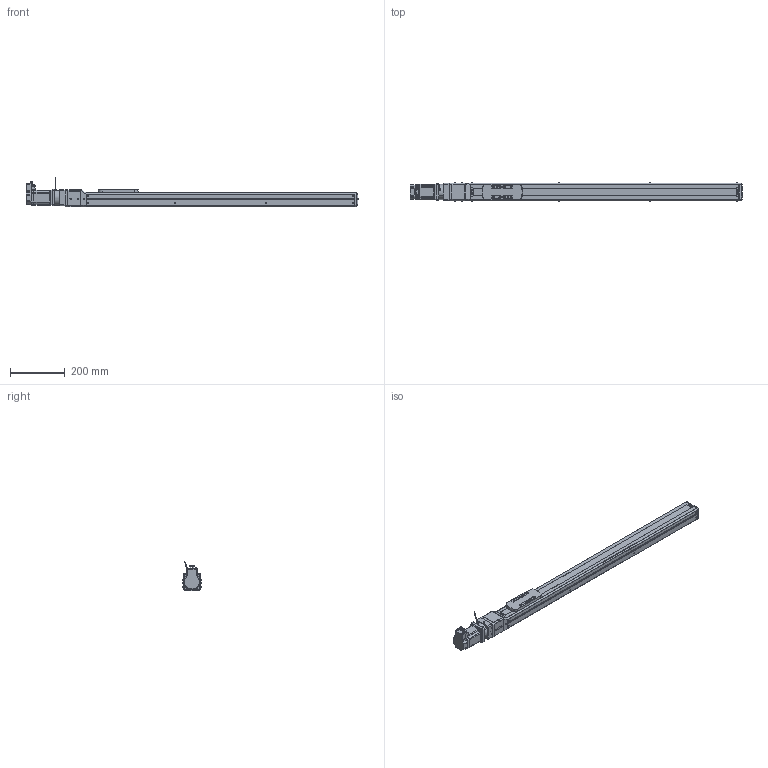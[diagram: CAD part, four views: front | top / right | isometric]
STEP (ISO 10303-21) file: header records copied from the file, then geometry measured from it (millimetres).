
FILE_DESCRIPTION(('FreeCAD Model'),'2;1');
FILE_NAME('Open CASCADE Shape Model','2023-08-03T14:38:38',('Author'),( ''),'Open CASCADE STEP processor 7.5','FreeCAD','Unknown');
FILE_SCHEMA(('AUTOMOTIVE_DESIGN { 1 0 10303 214 1 1 1 1 }'));
Length unit declared in the file: millimetre
Products named in the file (21): RMJ1211_BRK; Shapes; Shapes001; Shapes002; Shapes003; Shapes004; Shapes005; Shapes006; Shapes007; Shapes008; Shapes009; Shapes010; Shapes011; Shapes012; Body; BXW-03-10H-8_STEP; Body001; KSF6-20-0750-0-A0(0); KSF6---(Cover); KSF6-10-0750---(slider); KSF6-20-0750-A0 (0750A0No0)---(body)
Assembly tree (20 placements, depth 3):
  RMJ1211_BRK
    Shapes
    Shapes001
    Shapes002
    Shapes003
    Shapes004
    Shapes005
    Shapes006
    Shapes007
    Shapes008
    Shapes009
    Shapes010
    Shapes011
    Shapes012
    Body
    BXW-03-10H-8_STEP
    Body001
    KSF6-20-0750-0-A0(0)
      KSF6---(Cover)
      KSF6-10-0750---(slider)
      KSF6-20-0750-A0 (0750A0No0)---(body)
Bounding box: 1210.47 x 66.4 x 107.78 mm (x, y, z)
Volume: 3732999.9 mm3; surface area: 428806.8 mm2
Topology: 19 solids, 19 shells, 1898 faces, 5045 edges, 3308 vertices
Faces by surface type: plane 1255, cylinder 493, cone 91, bspline 28, torus 27, revolution 4
Full cylindrical faces by diameter (mm): 2.113 x8, 2.6 x4, 3 x5, 3.242 x5, 4.134 x4, 4.2 x7, 4.3 x1, 4.5 x2, 5 x1, 5.5 x16, 6.5 x4, 7.5 x4, 9 x1, 9.5 x10, 12 x1, 15.5 x1, 17 x1, 38.1 x1, 38.2 x1, 44 x1, 50 x2, 56.2 x1
Entity records: 135437 total; most frequent: CARTESIAN_POINT 31480, DIRECTION 19164, LINE 12439, VECTOR 12439, ORIENTED_EDGE 10042, PCURVE 10042, DEFINITIONAL_REPRESENTATION 10042, EDGE_CURVE 5021
